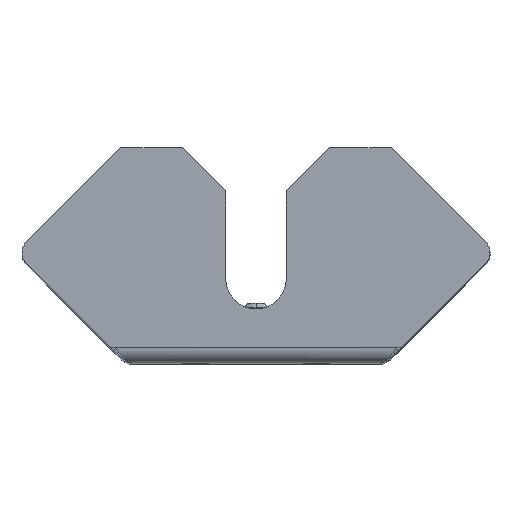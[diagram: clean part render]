
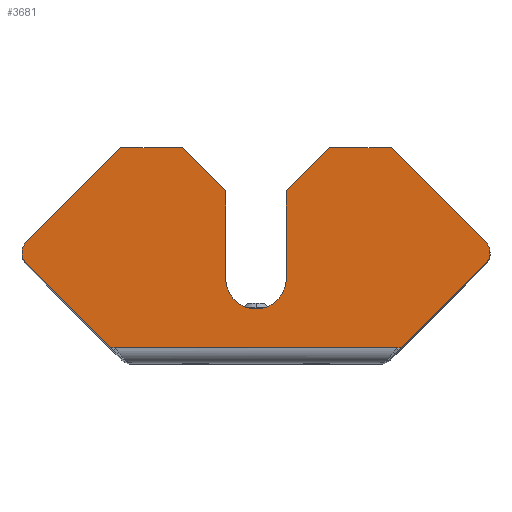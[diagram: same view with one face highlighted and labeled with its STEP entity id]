
A CAD part, top view. The second image highlights one B-rep face of the part: STEP entity #3681.
In plain terms, the highlighted planar face has unit normal (0, 0, 1) as drawn and (0, 0, -1) by its records, which use the part's own axes.
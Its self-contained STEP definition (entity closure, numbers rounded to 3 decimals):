
#27 = EDGE_CURVE ( 'NONE', #2075, #1348, #2691, .T. ) ;
#53 = CARTESIAN_POINT ( 'NONE',  ( 30.318, -49.73, -100. ) ) ;
#61 = CARTESIAN_POINT ( 'NONE',  ( 53.014, -27.935, -100. ) ) ;
#99 = DIRECTION ( 'NONE',  ( 1., 0., 0. ) ) ;
#112 = LINE ( 'NONE', #3792, #642 ) ;
#115 = VERTEX_POINT ( 'NONE', #3887 ) ;
#188 = CARTESIAN_POINT ( 'NONE',  ( 0., 0., -100. ) ) ;
#192 = CARTESIAN_POINT ( 'NONE',  ( -16.365, -16.365, -100. ) ) ;
#203 = ORIENTED_EDGE ( 'NONE', *, *, #1980, .T. ) ;
#207 = VECTOR ( 'NONE', #2985, 1000. ) ;
#286 = LINE ( 'NONE', #4369, #207 ) ;
#304 = VERTEX_POINT ( 'NONE', #4087 ) ;
#463 = CARTESIAN_POINT ( 'NONE',  ( -32.51, -3.5, -100. ) ) ;
#493 = DIRECTION ( 'NONE',  ( 0., 0., -1. ) ) ;
#531 = VERTEX_POINT ( 'NONE', #3667 ) ;
#538 = EDGE_CURVE ( 'NONE', #2232, #811, #868, .T. ) ;
#593 = AXIS2_PLACEMENT_3D ( 'NONE', #188, #4633, #3114 ) ;
#642 = VECTOR ( 'NONE', #1204, 1000. ) ;
#646 = VECTOR ( 'NONE', #3821, 1000. ) ;
#665 = CARTESIAN_POINT ( 'NONE',  ( -53.014, -27.935, -100. ) ) ;
#687 = EDGE_LOOP ( 'NONE', ( #4498, #3203, #1421, #2360, #3854, #3027, #1960, #2370, #2083, #4589, #203, #1063, #1548, #3935, #4166, #2475 ) ) ;
#811 = VERTEX_POINT ( 'NONE', #2962 ) ;
#855 = VECTOR ( 'NONE', #4649, 1000. ) ;
#868 = LINE ( 'NONE', #2317, #646 ) ;
#888 = VERTEX_POINT ( 'NONE', #4070 ) ;
#909 = DIRECTION ( 'NONE',  ( 0., 0., 1. ) ) ;
#922 = LINE ( 'NONE', #192, #1878 ) ;
#1054 = AXIS2_PLACEMENT_3D ( 'NONE', #4260, #4228, #3513 ) ;
#1063 = ORIENTED_EDGE ( 'NONE', *, *, #4680, .T. ) ;
#1070 = DIRECTION ( 'NONE',  ( 0., -1., 0. ) ) ;
#1097 = EDGE_CURVE ( 'NONE', #4218, #3207, #3151, .T. ) ;
#1204 = DIRECTION ( 'NONE',  ( -1., 0., 0. ) ) ;
#1270 = CARTESIAN_POINT ( 'NONE',  ( 0., -19.469, -100. ) ) ;
#1304 = CARTESIAN_POINT ( 'NONE',  ( -7., -39.73, -100. ) ) ;
#1348 = VERTEX_POINT ( 'NONE', #4285 ) ;
#1379 = EDGE_CURVE ( 'NONE', #2518, #3207, #2123, .T. ) ;
#1393 = CARTESIAN_POINT ( 'NONE',  ( -7., -19.469, -100. ) ) ;
#1421 = ORIENTED_EDGE ( 'NONE', *, *, #1379, .F. ) ;
#1519 = EDGE_CURVE ( 'NONE', #3084, #115, #1933, .T. ) ;
#1548 = ORIENTED_EDGE ( 'NONE', *, *, #4098, .T. ) ;
#1579 = EDGE_CURVE ( 'NONE', #1348, #4772, #2496, .T. ) ;
#1590 = CARTESIAN_POINT ( 'NONE',  ( 17., -49.73, -100. ) ) ;
#1612 = CARTESIAN_POINT ( 'NONE',  ( 55.489, -25.46, -100. ) ) ;
#1630 = AXIS2_PLACEMENT_3D ( 'NONE', #1270, #909, #99 ) ;
#1638 = LINE ( 'NONE', #1612, #855 ) ;
#1690 = EDGE_CURVE ( 'NONE', #115, #2075, #4682, .T. ) ;
#1834 = EDGE_CURVE ( 'NONE', #3084, #2518, #112, .T. ) ;
#1842 = VECTOR ( 'NONE', #4159, 1000. ) ;
#1860 = CARTESIAN_POINT ( 'NONE',  ( 31.22, -49.73, -100. ) ) ;
#1878 = VECTOR ( 'NONE', #2371, 1000. ) ;
#1933 = LINE ( 'NONE', #3865, #2186 ) ;
#1937 = CARTESIAN_POINT ( 'NONE',  ( 30.318, -49.73, -100. ) ) ;
#1960 = ORIENTED_EDGE ( 'NONE', *, *, #27, .T. ) ;
#1980 = EDGE_CURVE ( 'NONE', #4746, #4503, #922, .T. ) ;
#1996 = DIRECTION ( 'NONE',  ( 1., 0., 0. ) ) ;
#2075 = VERTEX_POINT ( 'NONE', #2519 ) ;
#2083 = ORIENTED_EDGE ( 'NONE', *, *, #4097, .T. ) ;
#2123 = LINE ( 'NONE', #3566, #4695 ) ;
#2186 = VECTOR ( 'NONE', #4552, 1000. ) ;
#2220 = DIRECTION ( 'NONE',  ( 0., 1., 0. ) ) ;
#2232 = VERTEX_POINT ( 'NONE', #1304 ) ;
#2260 = EDGE_CURVE ( 'NONE', #4746, #4023, #3057, .T. ) ;
#2261 = VECTOR ( 'NONE', #2865, 1000. ) ;
#2317 = CARTESIAN_POINT ( 'NONE',  ( 16.365, -16.365, -100. ) ) ;
#2338 = FACE_OUTER_BOUND ( 'NONE', #687, .T. ) ;
#2360 = ORIENTED_EDGE ( 'NONE', *, *, #1834, .F. ) ;
#2370 = ORIENTED_EDGE ( 'NONE', *, *, #1579, .T. ) ;
#2371 = DIRECTION ( 'NONE',  ( -0.707, 0.707, 0. ) ) ;
#2475 = ORIENTED_EDGE ( 'NONE', *, *, #4032, .F. ) ;
#2496 = CIRCLE ( 'NONE', #3049, 3.5 ) ;
#2518 = VERTEX_POINT ( 'NONE', #4514 ) ;
#2519 = CARTESIAN_POINT ( 'NONE',  ( 33.529, -3.5, -100. ) ) ;
#2691 = LINE ( 'NONE', #3849, #4537 ) ;
#2858 = VECTOR ( 'NONE', #1070, 1000. ) ;
#2865 = DIRECTION ( 'NONE',  ( 1., 0., 0. ) ) ;
#2924 = CIRCLE ( 'NONE', #1630, 7. ) ;
#2961 = EDGE_CURVE ( 'NONE', #4218, #304, #286, .T. ) ;
#2962 = CARTESIAN_POINT ( 'NONE',  ( -17., -49.73, -100. ) ) ;
#2985 = DIRECTION ( 'NONE',  ( 0.707, -0.707, 0. ) ) ;
#3027 = ORIENTED_EDGE ( 'NONE', *, *, #1690, .T. ) ;
#3049 = AXIS2_PLACEMENT_3D ( 'NONE', #3797, #493, #3071 ) ;
#3057 = LINE ( 'NONE', #1937, #4705 ) ;
#3071 = DIRECTION ( 'NONE',  ( 0., 1., 0. ) ) ;
#3084 = VERTEX_POINT ( 'NONE', #463 ) ;
#3114 = DIRECTION ( 'NONE',  ( 0., 1., 0. ) ) ;
#3151 = CIRCLE ( 'NONE', #1054, 3.5 ) ;
#3186 = VECTOR ( 'NONE', #2220, 1000. ) ;
#3203 = ORIENTED_EDGE ( 'NONE', *, *, #1097, .T. ) ;
#3207 = VERTEX_POINT ( 'NONE', #3924 ) ;
#3336 = LINE ( 'NONE', #53, #1842 ) ;
#3513 = DIRECTION ( 'NONE',  ( 0., 1., 0. ) ) ;
#3525 = PLANE ( 'NONE',  #593 ) ;
#3566 = CARTESIAN_POINT ( 'NONE',  ( -33.529, -3.5, -100. ) ) ;
#3667 = CARTESIAN_POINT ( 'NONE',  ( -7., -19.469, -100. ) ) ;
#3681 = ADVANCED_FACE ( 'NONE', ( #2338 ), #3525, .T. ) ;
#3777 = CARTESIAN_POINT ( 'NONE',  ( 7., -39.73, -100. ) ) ;
#3792 = CARTESIAN_POINT ( 'NONE',  ( -30.05, -3.5, -100. ) ) ;
#3797 = CARTESIAN_POINT ( 'NONE',  ( 50.54, -25.46, -100. ) ) ;
#3821 = DIRECTION ( 'NONE',  ( -0.707, -0.707, 0. ) ) ;
#3849 = CARTESIAN_POINT ( 'NONE',  ( 33.529, -3.5, -100. ) ) ;
#3854 = ORIENTED_EDGE ( 'NONE', *, *, #1519, .T. ) ;
#3865 = CARTESIAN_POINT ( 'NONE',  ( 0., -3.5, -100. ) ) ;
#3887 = CARTESIAN_POINT ( 'NONE',  ( 32.51, -3.5, -100. ) ) ;
#3902 = EDGE_CURVE ( 'NONE', #531, #2232, #4359, .T. ) ;
#3924 = CARTESIAN_POINT ( 'NONE',  ( -53.014, -22.986, -100. ) ) ;
#3935 = ORIENTED_EDGE ( 'NONE', *, *, #3902, .T. ) ;
#3978 = DIRECTION ( 'NONE',  ( -0.707, -0.707, 0. ) ) ;
#4023 = VERTEX_POINT ( 'NONE', #1860 ) ;
#4032 = EDGE_CURVE ( 'NONE', #304, #811, #3336, .T. ) ;
#4070 = CARTESIAN_POINT ( 'NONE',  ( 7., -19.469, -100. ) ) ;
#4087 = CARTESIAN_POINT ( 'NONE',  ( -31.22, -49.73, -100. ) ) ;
#4097 = EDGE_CURVE ( 'NONE', #4772, #4023, #1638, .T. ) ;
#4098 = EDGE_CURVE ( 'NONE', #888, #531, #2924, .T. ) ;
#4159 = DIRECTION ( 'NONE',  ( 1., 0., 0. ) ) ;
#4166 = ORIENTED_EDGE ( 'NONE', *, *, #538, .T. ) ;
#4167 = LINE ( 'NONE', #4530, #3186 ) ;
#4218 = VERTEX_POINT ( 'NONE', #665 ) ;
#4224 = CARTESIAN_POINT ( 'NONE',  ( 30.05, -3.5, -100. ) ) ;
#4228 = DIRECTION ( 'NONE',  ( 0., 0., -1. ) ) ;
#4260 = CARTESIAN_POINT ( 'NONE',  ( -50.54, -25.46, -100. ) ) ;
#4285 = CARTESIAN_POINT ( 'NONE',  ( 53.014, -22.986, -100. ) ) ;
#4359 = LINE ( 'NONE', #1393, #2858 ) ;
#4369 = CARTESIAN_POINT ( 'NONE',  ( -55.489, -25.46, -100. ) ) ;
#4498 = ORIENTED_EDGE ( 'NONE', *, *, #2961, .F. ) ;
#4503 = VERTEX_POINT ( 'NONE', #3777 ) ;
#4514 = CARTESIAN_POINT ( 'NONE',  ( -33.529, -3.5, -100. ) ) ;
#4530 = CARTESIAN_POINT ( 'NONE',  ( 7., -19.469, -100. ) ) ;
#4537 = VECTOR ( 'NONE', #4562, 1000. ) ;
#4552 = DIRECTION ( 'NONE',  ( 1., 0., 0. ) ) ;
#4562 = DIRECTION ( 'NONE',  ( 0.707, -0.707, 0. ) ) ;
#4589 = ORIENTED_EDGE ( 'NONE', *, *, #2260, .F. ) ;
#4633 = DIRECTION ( 'NONE',  ( 0., 0., -1. ) ) ;
#4649 = DIRECTION ( 'NONE',  ( -0.707, -0.707, 0. ) ) ;
#4680 = EDGE_CURVE ( 'NONE', #4503, #888, #4167, .T. ) ;
#4682 = LINE ( 'NONE', #4224, #2261 ) ;
#4695 = VECTOR ( 'NONE', #3978, 1000. ) ;
#4705 = VECTOR ( 'NONE', #1996, 1000. ) ;
#4746 = VERTEX_POINT ( 'NONE', #1590 ) ;
#4772 = VERTEX_POINT ( 'NONE', #61 ) ;
